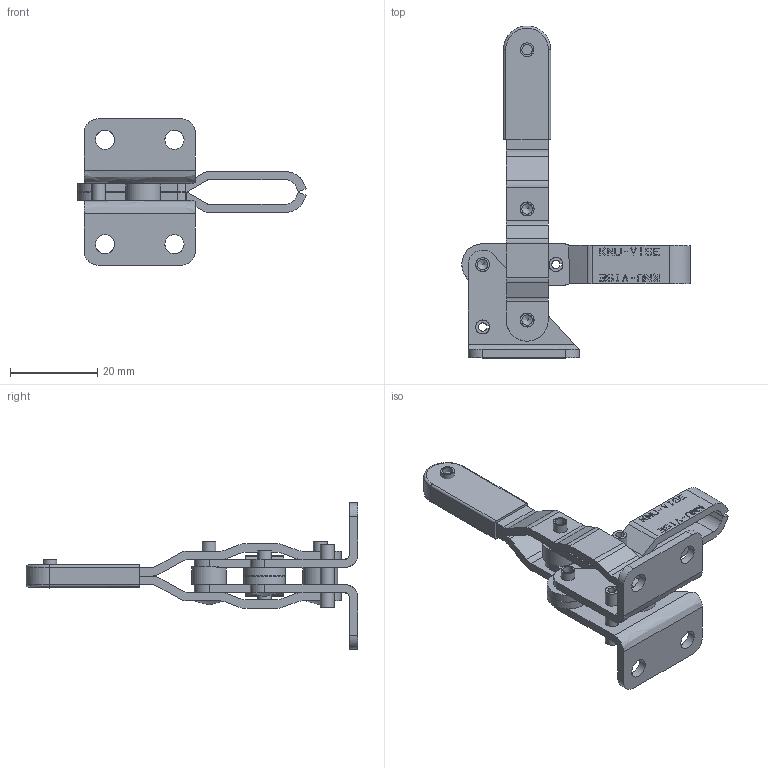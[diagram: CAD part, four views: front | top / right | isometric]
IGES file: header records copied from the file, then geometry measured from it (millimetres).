
Global section: file name: V-120; native system: Autodesk RealDWG; preprocessor: Autodesk Translation Framework DWG producer (atf_dwg_producer); organization: unknown; date: 20151002.164820; units: inch
Bounding box: 52.18 x 75.86 x 33.43 mm (x, y, z)
Volume: 8306.4 mm3; surface area: 12817.8 mm2
Topology: 17 solids, 17 shells, 639 faces, 1726 edges, 1162 vertices
Faces by surface type: bspline 639
